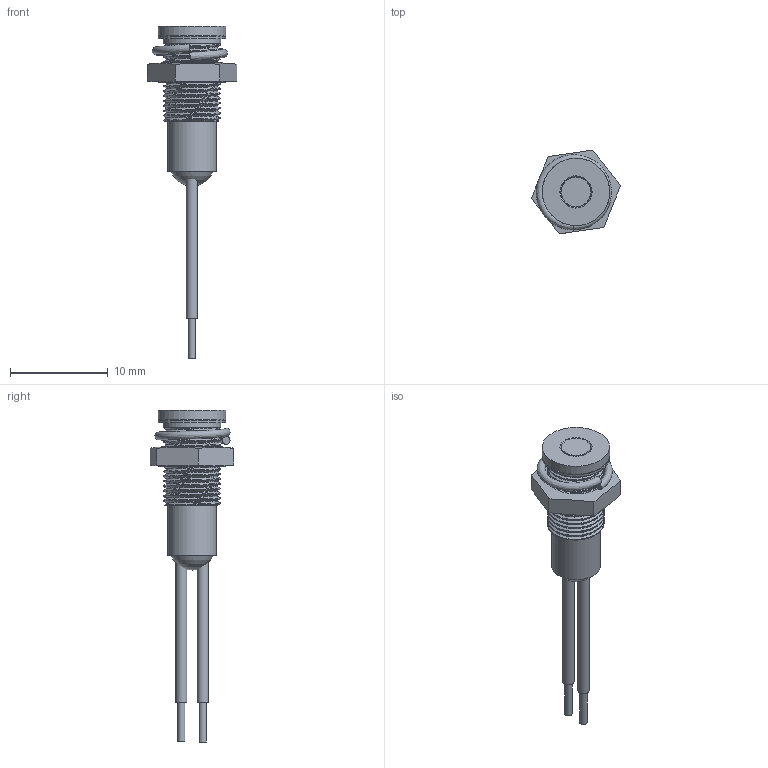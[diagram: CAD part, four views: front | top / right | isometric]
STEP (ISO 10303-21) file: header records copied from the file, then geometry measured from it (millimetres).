
FILE_DESCRIPTION(/* description */ ('AdapterTestApp'),/* implementation_level */ '2;1');
FILE_NAME(/* name */ 'Q6F5C-2 wires only',/* time_stamp */ '2017-11-20T12:10:48+00:00',/* author */ ('AdapterTestApp'),/* organization */ ('Siemens PLM Software'),/* preprocessor_version */ 'ST-DEVELOPER v15.6',/* originating_system */ 'DEX',/* authorisation */ $);
FILE_SCHEMA (('AUTOMOTIVE_DESIGN {1 0 10303 214 3 1 1}'));
Length unit declared in the file: millimetre
Products named in the file (9): Q6F5C-2 wires only; 3mmLED-flush-cut; wire-red short; wire-black-short; 34-0082; 26-0047iss2; 13-0035; 21-0025; 6mm potting
Assembly tree (8 placements, depth 2):
  Q6F5C-2 wires only
    3mmLED-flush-cut
    wire-red short
    wire-black-short
    34-0082
    26-0047iss2
    13-0035
    21-0025
    6mm potting
Bounding box: 9.14 x 8.58 x 34 mm (x, y, z)
Volume: 402.1 mm3; surface area: 1237.1 mm2
Topology: 8 solids, 8 shells, 87 faces, 174 edges, 117 vertices
Faces by surface type: plane 56, cylinder 20, bspline 6, cone 2, torus 2, sphere 1
Full cylindrical faces by diameter (mm): 0.75 x4, 1.15 x4, 3 x1, 3.1 x1, 3.4 x1, 4.3 x2, 5 x1, 5.75 x1, 5.9 x1, 6.9 x2
Entity records: 6452 total; most frequent: CARTESIAN_POINT 4633, DIRECTION 334, ORIENTED_EDGE 284, EDGE_CURVE 142, AXIS2_PLACEMENT_3D 134, EDGE_LOOP 131, FACE_BOUND 131, VERTEX_POINT 109
